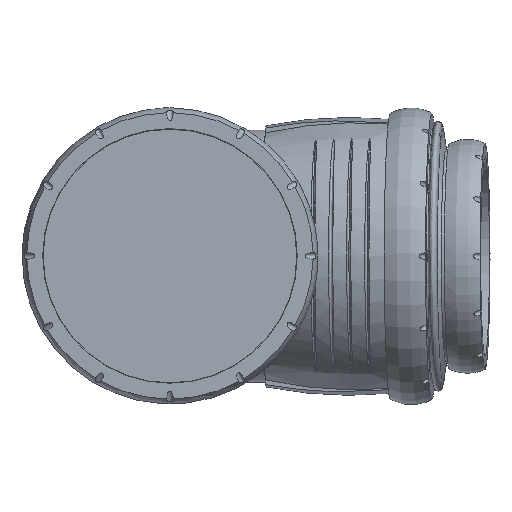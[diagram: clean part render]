
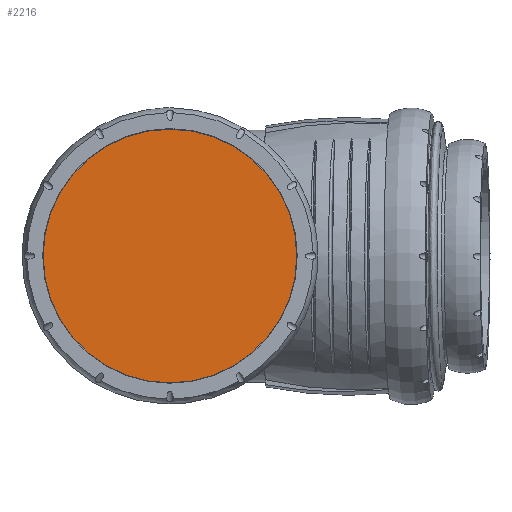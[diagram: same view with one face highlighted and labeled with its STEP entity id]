
A CAD part, top view. The second image highlights one B-rep face of the part: STEP entity #2216.
In plain terms, the highlighted planar face has unit normal (0, 0, 1).
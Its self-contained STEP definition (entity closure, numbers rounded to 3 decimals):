
#286=PLANE('',#2395);
#392=FACE_OUTER_BOUND('',#536,.T.);
#536=EDGE_LOOP('',(#1417));
#725=CIRCLE('',#2396,80.6);
#843=VERTEX_POINT('',#3255);
#1079=EDGE_CURVE('',#843,#843,#725,.T.);
#1417=ORIENTED_EDGE('',*,*,#1079,.T.);
#2216=ADVANCED_FACE('',(#392),#286,.T.);
#2395=AXIS2_PLACEMENT_3D('',#3254,#2698,#2699);
#2396=AXIS2_PLACEMENT_3D('',#3256,#2700,#2701);
#2698=DIRECTION('center_axis',(0.,0.,
1.));
#2699=DIRECTION('ref_axis',(0.,1.,0.));
#2700=DIRECTION('center_axis',(0.,0.,
1.));
#2701=DIRECTION('ref_axis',(0.,1.,0.));
#3254=CARTESIAN_POINT('Origin',(0.,0.,
257.65));
#3255=CARTESIAN_POINT('',(-80.6,0.,257.65));
#3256=CARTESIAN_POINT('Origin',(0.,0.,
257.65));
